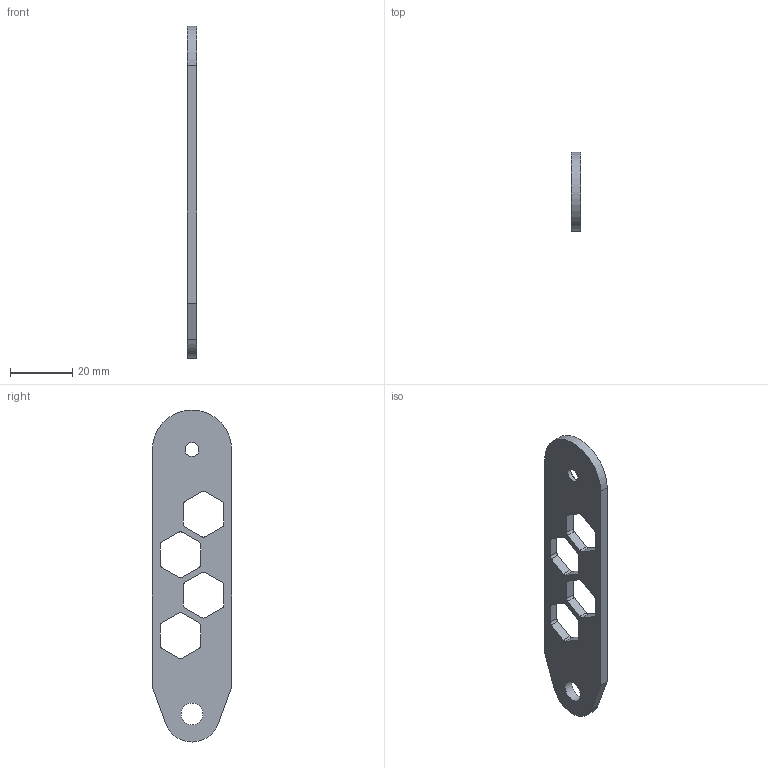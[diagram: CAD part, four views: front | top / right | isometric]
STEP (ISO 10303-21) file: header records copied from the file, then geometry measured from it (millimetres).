
FILE_DESCRIPTION(/* description */ (''),/* implementation_level */ '2;1');
FILE_NAME(/* name */ 'C:/Users/anton/Documents/Kerbal Space Program/Kerbal_Control_Panel/KCP2/CAD/ForManufacture/Handlebar.step',/* time_stamp */ '2020-11-13T15:53:04-08:00',/* author */ (''),/* organization */ (''),/* preprocessor_version */ 'ST-DEVELOPER v18.1',/* originating_system */ 'Autodesk Translation Framework v9.3.0.1241',/* authorisation */ '');
FILE_SCHEMA (('AUTOMOTIVE_DESIGN { 1 0 10303 214 3 1 1 }'));
Length unit declared in the file: millimetre
Products named in the file (1): Handlebar
Bounding box: 3 x 25.4 x 106.7 mm (x, y, z)
Volume: 5596.9 mm3; surface area: 5099.5 mm2
Topology: 1 solids, 1 shells, 59 faces, 170 edges, 113 vertices
Faces by surface type: plane 30, cylinder 28, cone 1
Full cylindrical faces by diameter (mm): 4.496 x1, 7 x1
Entity records: 2017 total; most frequent: DIRECTION 347, CARTESIAN_POINT 343, ORIENTED_EDGE 340, EDGE_CURVE 170, AXIS2_PLACEMENT_3D 117, LINE 113, VECTOR 113, VERTEX_POINT 113
